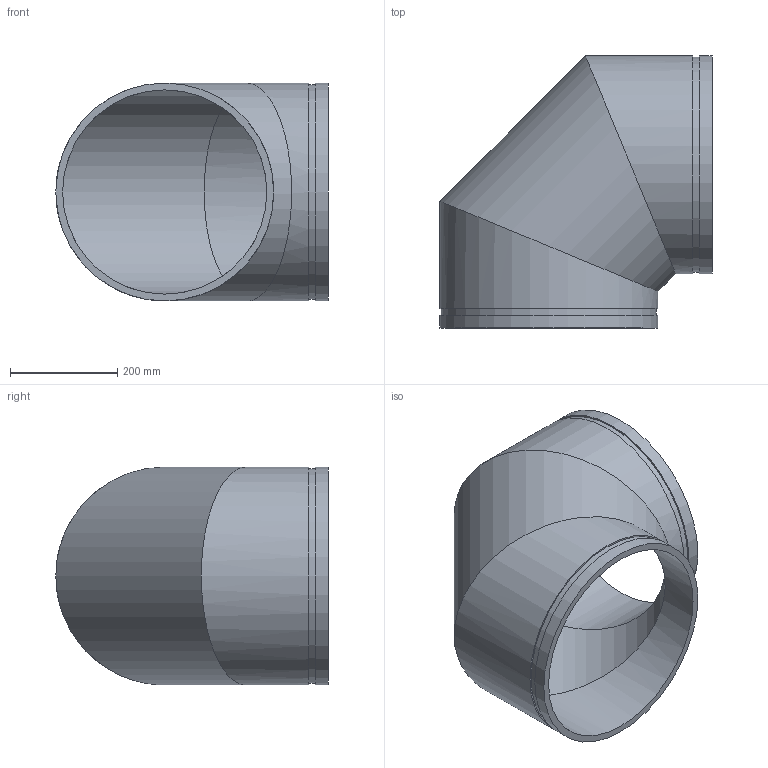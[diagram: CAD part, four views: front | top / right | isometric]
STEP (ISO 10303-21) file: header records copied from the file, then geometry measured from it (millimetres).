
FILE_DESCRIPTION(/* description */ ('VIC 90 DEG ELBOW FABRICATED No 10 SWS (OGS)','CAx-IF Rec.Pracs.---Representation and Presentation of Product Manufacturing Information (PMI)---4.0---2014-10-13'),/* implementation_level */ '2;1');
FILE_NAME(/* name */ 'C:\Users\kkamble\AppData\Roaming\Autodesk\ApplicationPlugins\Back Up\Victaulic_IPS_Elbow 90 Deg_No 10 SWS (OGS)\Victaulic_IPS_Elbow 90 Deg_No 10 SWS (OGS)_16 (400).stp',/* time_stamp */ '2020-09-16T22:18:13+06:00',/* author */ ('cgray'),/* organization */ ('Victaulic'),/* preprocessor_version */ 'ST-DEVELOPER v17.2',/* originating_system */ 'Autodesk Inventor 2019',/* authorisation */ '');
FILE_SCHEMA (('AP242_MANAGED_MODEL_BASED_3D_ENGINEERING_MIM_LF { 1 0 10303 442 1 1 4 }'));
Length unit declared in the file: inch
Products named in the file (1): 10 SWS-16.0
Bounding box: 508 x 508 x 406.4 mm (x, y, z)
Volume: 8083670.5 mm3; surface area: 1332204.6 mm2
Topology: 1 solids, 1 shells, 16 faces, 38 edges, 28 vertices
Faces by surface type: cylinder 10, plane 6
Full cylindrical faces by diameter (mm): 381 x3, 400.837 x2, 406.4 x5
Entity records: 646 total; most frequent: DIRECTION 126, CARTESIAN_POINT 100, ORIENTED_EDGE 76, AXIS2_PLACEMENT_3D 58, EDGE_CURVE 38, VERTEX_POINT 28, EDGE_LOOP 22, STYLED_ITEM 18
